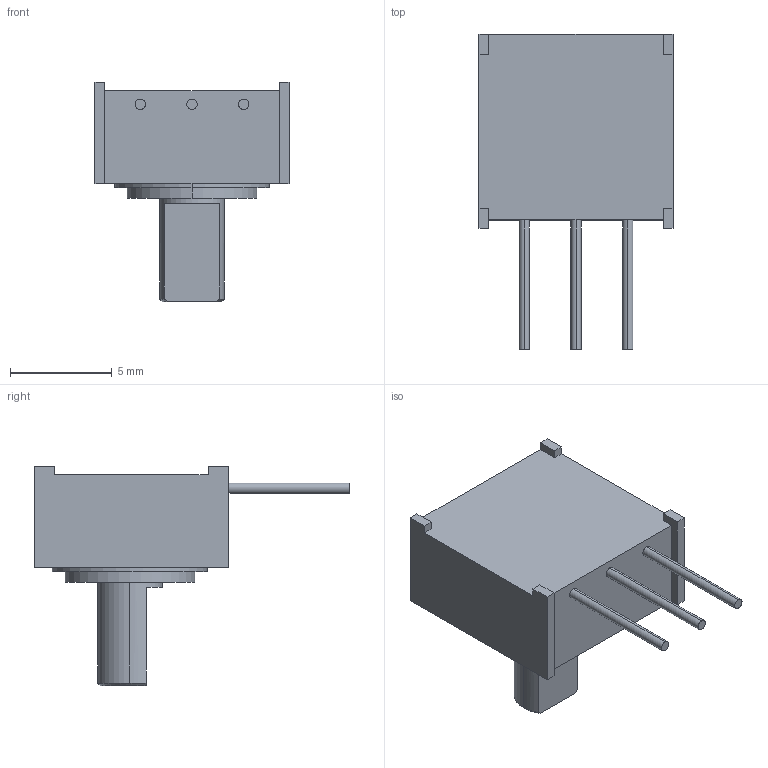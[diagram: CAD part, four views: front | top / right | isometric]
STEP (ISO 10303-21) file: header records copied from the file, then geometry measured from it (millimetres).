
FILE_DESCRIPTION(/* description */ ('Unknown'),/* implementation_level */ '2;1');
FILE_NAME(/* name */ 'P9AC0ABBS____',/* time_stamp */ '2026-05-20T16:36:21+02:00',/* author */ ('Unknown'),/* organization */ ('Unknown'),/* preprocessor_version */ 'ST-DEVELOPER v19.4',/* originating_system */ 'Solid Edge',/* authorisation */ 'Unknown');
FILE_SCHEMA (('AUTOMOTIVE_DESIGN {1 0 10303 214 3 1 1}'));
Length unit declared in the file: millimetre
Products named in the file (1): 3310C-125 - Copie
Bounding box: 9.53 x 15.49 x 10.77 mm (x, y, z)
Volume: 381.6 mm3; surface area: 754.1 mm2
Topology: 1 solids, 1 shells, 133 faces, 347 edges, 228 vertices
Faces by surface type: plane 79, cylinder 45, cone 8, torus 1
Entity records: 4170 total; most frequent: DIRECTION 740, CARTESIAN_POINT 733, ORIENTED_EDGE 694, EDGE_CURVE 347, AXIS2_PLACEMENT_3D 265, VERTEX_POINT 228, LINE 210, VECTOR 210
